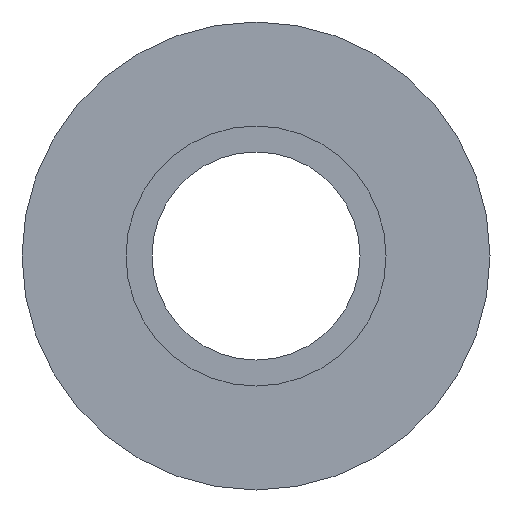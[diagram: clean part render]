
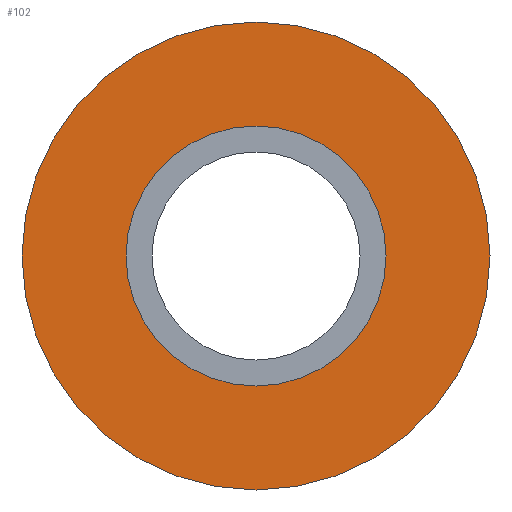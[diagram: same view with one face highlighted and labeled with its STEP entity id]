
A CAD part, left-side view. The second image highlights one B-rep face of the part: STEP entity #102.
In plain terms, the highlighted planar face has unit normal (-1, 0, 0).
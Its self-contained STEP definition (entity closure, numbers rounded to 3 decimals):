
#28=ORIENTED_EDGE('',*,*,#43,.F.);
#29=ORIENTED_EDGE('',*,*,#42,.T.);
#42=EDGE_CURVE('',#50,#50,#58,.T.);
#43=EDGE_CURVE('',#51,#51,#59,.T.);
#50=VERTEX_POINT('',#179);
#51=VERTEX_POINT('',#182);
#58=CIRCLE('',#125,5.);
#59=CIRCLE('',#127,9.);
#68=EDGE_LOOP('',(#28));
#69=EDGE_LOOP('',(#29));
#84=FACE_BOUND('',#68,.T.);
#85=FACE_BOUND('',#69,.T.);
#97=PLANE('',#126);
#102=ADVANCED_FACE('',(#84,#85),#97,.F.);
#125=AXIS2_PLACEMENT_3D('',#178,#147,#148);
#126=AXIS2_PLACEMENT_3D('',#180,#149,#150);
#127=AXIS2_PLACEMENT_3D('',#181,#151,#152);
#147=DIRECTION('',(1.,0.,0.));
#148=DIRECTION('',(0.,0.,-1.));
#149=DIRECTION('',(1.,0.,0.));
#150=DIRECTION('',(0.,0.,-1.));
#151=DIRECTION('',(1.,0.,0.));
#152=DIRECTION('',(0.,0.,-1.));
#178=CARTESIAN_POINT('',(4.,0.,0.));
#179=CARTESIAN_POINT('',(4.,0.,-5.));
#180=CARTESIAN_POINT('',(4.,5.,0.));
#181=CARTESIAN_POINT('',(4.,0.,0.));
#182=CARTESIAN_POINT('',(4.,0.,-9.));
